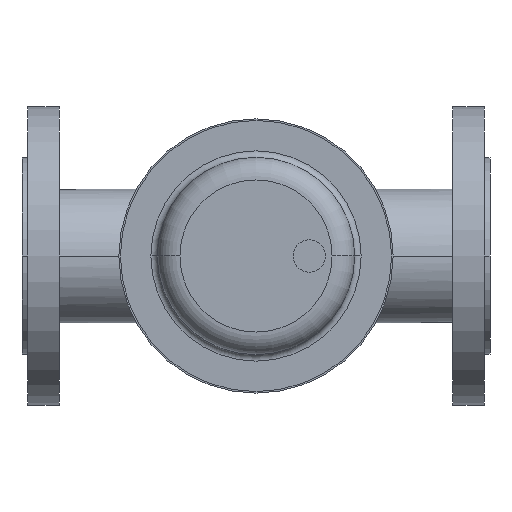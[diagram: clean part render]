
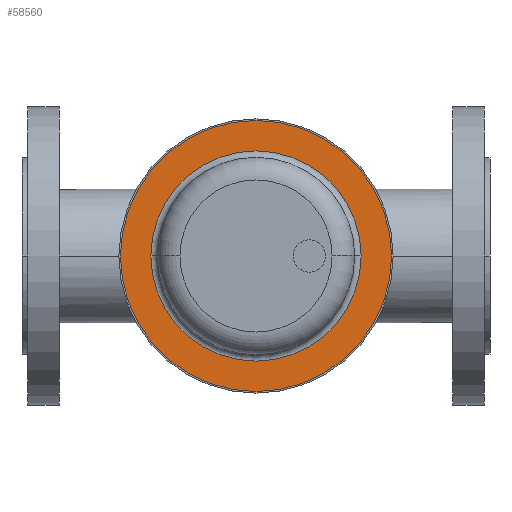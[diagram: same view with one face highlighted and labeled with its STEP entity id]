
A CAD part, front view. The second image highlights one B-rep face of the part: STEP entity #58560.
In plain terms, the highlighted planar face has unit normal (0, -1, 0).
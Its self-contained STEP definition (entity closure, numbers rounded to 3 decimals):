
#54760=CARTESIAN_POINT('',(61.,-451.5,0.));
#54770=VERTEX_POINT('',#54760);
#54800=CARTESIAN_POINT('',(145.,-451.5,0.));
#54810=DIRECTION('',(0.,1.,0.));
#54820=DIRECTION('',(1.,0.,0.));
#54830=AXIS2_PLACEMENT_3D('',#54800,#54810,#54820);
#54840=CIRCLE('',#54830,84.);
#54850=CARTESIAN_POINT('',(229.,-451.5,0.));
#54860=VERTEX_POINT('',#54850);
#54870=EDGE_CURVE('',#54860,#54770,#54840,.T.);
#55190=CARTESIAN_POINT('',(145.,-451.5,0.));
#55200=DIRECTION('',(0.,1.,0.));
#55210=DIRECTION('',(1.,0.,0.));
#55220=AXIS2_PLACEMENT_3D('',#55190,#55200,#55210);
#55230=CIRCLE('',#55220,65.125);
#55240=CARTESIAN_POINT('',(145.,-451.5,65.125));
#55250=VERTEX_POINT('',#55240);
#55260=CARTESIAN_POINT('',(210.125,-451.5,0.));
#55270=VERTEX_POINT('',#55260);
#55280=EDGE_CURVE('',#55250,#55270,#55230,.T.);
#55530=CARTESIAN_POINT('',(79.875,-451.5,0.));
#55540=VERTEX_POINT('',#55530);
#55570=EDGE_CURVE('',#55540,#55250,#55230,.T.);
#58400=CARTESIAN_POINT('',(219.563,-451.5,0.));
#58410=DIRECTION('',(0.,-1.,0.));
#58420=DIRECTION('',(-1.,0.,0.));
#58430=AXIS2_PLACEMENT_3D('',#58400,#58410,#58420);
#58440=PLANE('',#58430);
#58450=EDGE_CURVE('',#54770,#54860,#54840,.T.);
#58460=ORIENTED_EDGE('',*,*,#58450,.F.);
#58470=ORIENTED_EDGE('',*,*,#54870,.F.);
#58480=EDGE_LOOP('',(#58470,#58460));
#58490=FACE_OUTER_BOUND('',#58480,.T.);
#58500=EDGE_CURVE('',#55270,#55540,#55230,.T.);
#58510=ORIENTED_EDGE('',*,*,#58500,.T.);
#58520=ORIENTED_EDGE('',*,*,#55280,.T.);
#58530=ORIENTED_EDGE('',*,*,#55570,.T.);
#58540=EDGE_LOOP('',(#58530,#58520,#58510));
#58550=FACE_BOUND('',#58540,.T.);
#58560=ADVANCED_FACE('',(#58490,#58550),#58440,.T.);
